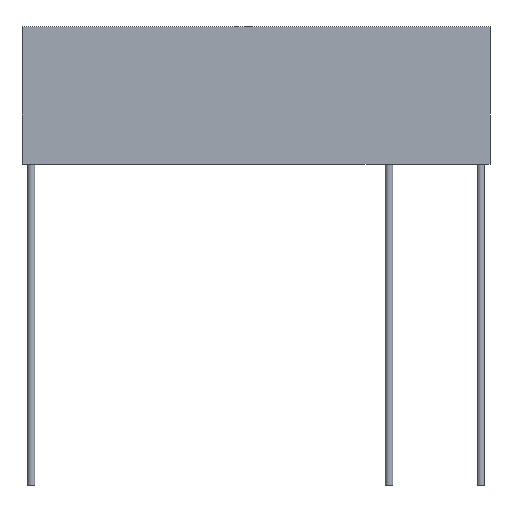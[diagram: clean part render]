
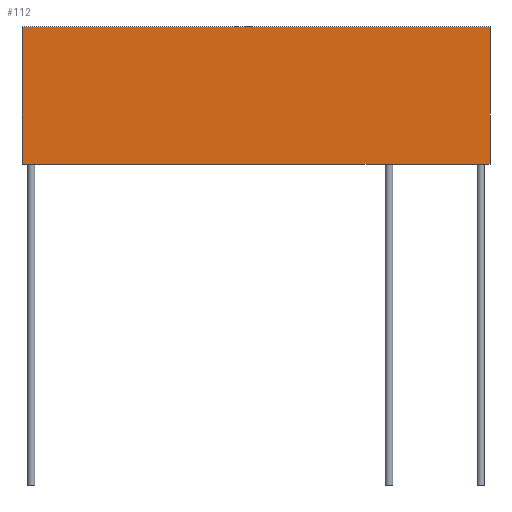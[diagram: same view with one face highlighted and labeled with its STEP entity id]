
A CAD part, front view. The second image highlights one B-rep face of the part: STEP entity #112.
In plain terms, the highlighted planar face has unit normal (0, -1, 0).
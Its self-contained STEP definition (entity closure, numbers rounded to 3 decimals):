
#112=ADVANCED_FACE('',(#214),#216,.T.);
#214=FACE_BOUND('',#215,.T.);
#215=EDGE_LOOP('',(#289,#290,#291,#292));
#216=PLANE('',#217);
#217=AXIS2_PLACEMENT_3D('',#218,#219,#220);
#218=CARTESIAN_POINT('',(-25.5,-1.25,0.));
#219=DIRECTION('',(0.,-1.,0.));
#220=DIRECTION('',(1.,0.,0.));
#289=ORIENTED_EDGE('',*,*,#311,.T.);
#290=ORIENTED_EDGE('',*,*,#324,.T.);
#291=ORIENTED_EDGE('',*,*,#325,.F.);
#292=ORIENTED_EDGE('',*,*,#326,.F.);
#311=EDGE_CURVE('',#341,#339,#342,.T.);
#324=EDGE_CURVE('',#339,#362,#364,.T.);
#325=EDGE_CURVE('',#365,#362,#366,.T.);
#326=EDGE_CURVE('',#341,#365,#367,.T.);
#339=VERTEX_POINT('',#396);
#341=VERTEX_POINT('',#400);
#342=LINE('',#401,#402);
#362=VERTEX_POINT('',#450);
#364=LINE('',#454,#455);
#365=VERTEX_POINT('',#457);
#366=LINE('',#458,#459);
#367=LINE('',#461,#462);
#396=CARTESIAN_POINT('',(25.5,-1.25,0.));
#400=CARTESIAN_POINT('',(-25.5,-1.25,0.));
#401=CARTESIAN_POINT('',(-25.5,-1.25,0.));
#402=VECTOR('',#403,1.);
#403=DIRECTION('',(1.,0.,0.));
#450=CARTESIAN_POINT('',(25.5,-1.25,15.));
#454=CARTESIAN_POINT('',(25.5,-1.25,0.));
#455=VECTOR('',#456,1.);
#456=DIRECTION('',(0.,0.,1.));
#457=CARTESIAN_POINT('',(-25.5,-1.25,15.));
#458=CARTESIAN_POINT('',(-25.5,-1.25,15.));
#459=VECTOR('',#460,1.);
#460=DIRECTION('',(1.,0.,0.));
#461=CARTESIAN_POINT('',(-25.5,-1.25,0.));
#462=VECTOR('',#463,1.);
#463=DIRECTION('',(0.,0.,1.));
